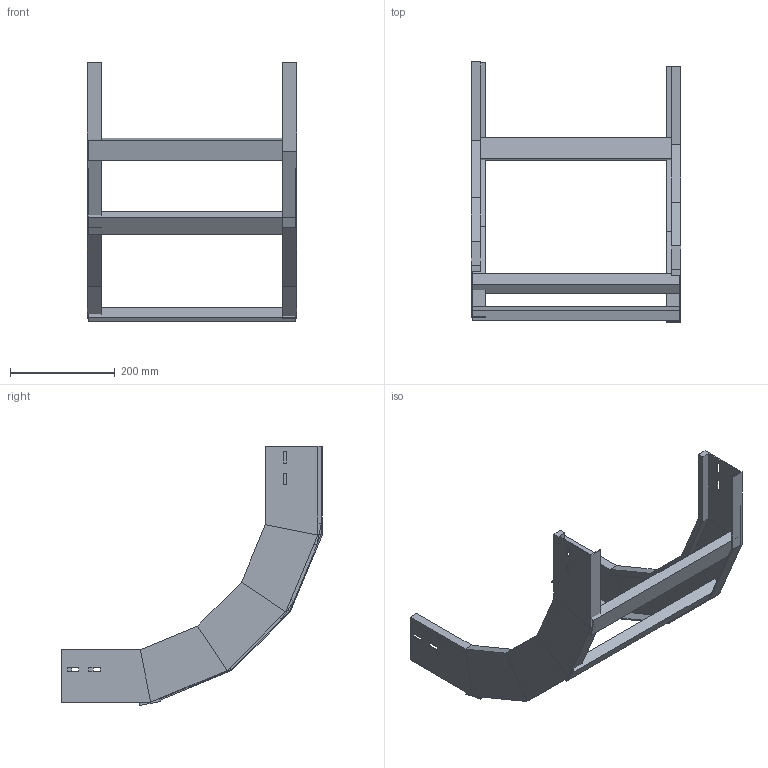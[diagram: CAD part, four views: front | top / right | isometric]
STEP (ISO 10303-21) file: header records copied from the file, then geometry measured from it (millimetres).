
FILE_DESCRIPTION (( 'STEP AP214' ), '1' );
FILE_NAME ('A2X30B3D400XX.step', '2025-04-02T08:57:59', ( '' ), ( '' ), 'SwSTEP 2.0', 'SolidWorks 2023', '' );
FILE_SCHEMA (( 'AUTOMOTIVE_DESIGN' ));
Length unit declared in the file: millimetre
Products named in the file (3): TRAVERSINO_400; LONGH.SALITA_90°_H100_R300; A2X30B3D400XX
Assembly tree (5 placements, depth 2):
  A2X30B3D400XX
    LONGH.SALITA_90°_H100_R300  x2
    TRAVERSINO_400  x3
Bounding box: 400 x 497.32 x 495.32 mm (x, y, z)
Volume: 1590586.2 mm3; surface area: 572653.5 mm2
Topology: 5 solids, 5 shells, 134 faces, 308 edges, 184 vertices
Faces by surface type: plane 134
Entity records: 1864 total; most frequent: CARTESIAN_POINT 308, ORIENTED_EDGE 296, DIRECTION 292, VECTOR 148, EDGE_CURVE 148, LINE 148, VERTEX_POINT 88, AXIS2_PLACEMENT_3D 72
